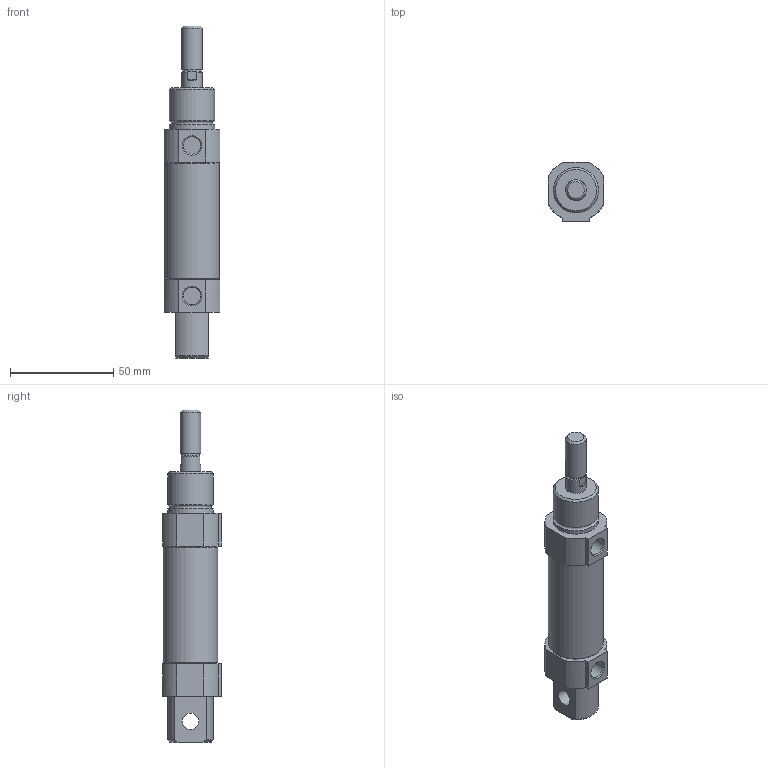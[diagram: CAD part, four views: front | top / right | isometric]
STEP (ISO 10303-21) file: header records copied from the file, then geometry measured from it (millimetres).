
FILE_DESCRIPTION((''),'2;1');
FILE_NAME('I:\3D電子目錄\氣缸\SDA\SDA25\SDA25\SDA25x25.stp','2007-08-06T10:32:29',('Administrator'),(''),'Autodesk Inventor 2008','Autodesk Inventor 2008','');
FILE_SCHEMA(('AUTOMOTIVE_DESIGN { 1 0 10303 214 1 1 1 1 }'));
Length unit declared in the file: millimetre
Products named in the file (1): SDA25X25
Bounding box: 27 x 28.5 x 161 mm (x, y, z)
Volume: 68035.9 mm3; surface area: 14113.9 mm2
Topology: 1 solids, 1 shells, 62 faces, 146 edges, 94 vertices
Faces by surface type: plane 30, cylinder 19, cone 10, bspline 2, torus 1
Full cylindrical faces by diameter (mm): 8 x1, 8.5 x2, 8.6 x1, 10 x2, 22 x2, 26.6 x1
Entity records: 1718 total; most frequent: CARTESIAN_POINT 307, DIRECTION 298, ORIENTED_EDGE 258, EDGE_CURVE 129, AXIS2_PLACEMENT_3D 116, VERTEX_POINT 93, EDGE_LOOP 88, VECTOR 66
